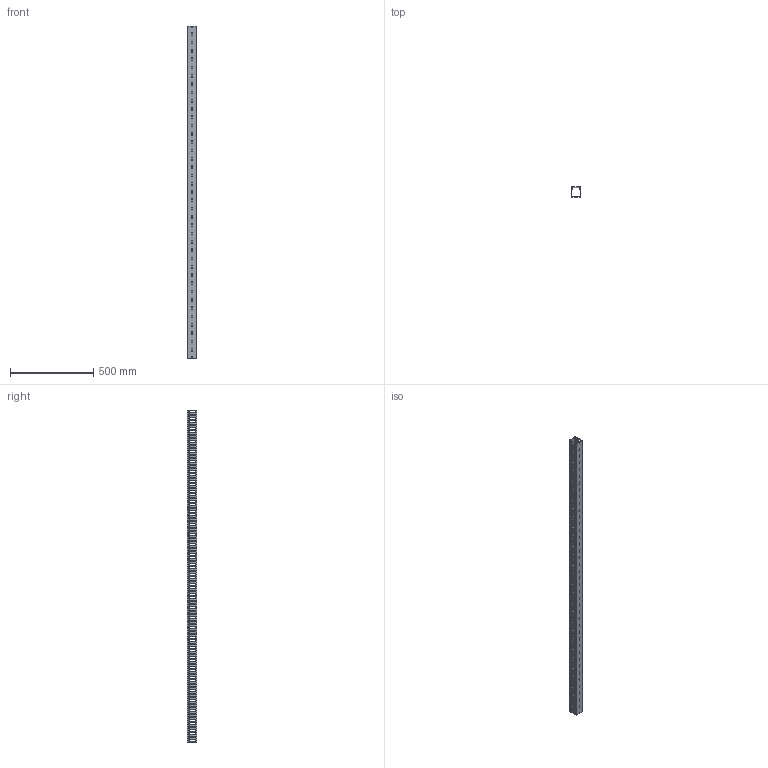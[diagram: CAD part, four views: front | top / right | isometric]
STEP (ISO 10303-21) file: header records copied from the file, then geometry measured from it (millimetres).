
FILE_DESCRIPTION (( 'STEP AP214' ), '1' );
FILE_NAME ('KD-56-20-T.STEP', '2020-02-19T00:30:36', ( '' ), ( '' ), 'SwSTEP 2.0', 'SolidWorks 2018', '' );
FILE_SCHEMA (( 'AUTOMOTIVE_DESIGN' ));
Length unit declared in the file: millimetre
Products named in the file (3): KD-56-20-T-body; KD-56-20-cover; KD-56-20-T
Assembly tree (2 placements, depth 2):
  KD-56-20-T
    KD-56-20-T-body
    KD-56-20-cover
Bounding box: 52 x 60.17 x 2000 mm (x, y, z)
Volume: 718991.2 mm3; surface area: 917880.1 mm2
Topology: 2 solids, 2 shells, 2867 faces, 9789 edges, 6526 vertices
Faces by surface type: plane 1710, cylinder 1157
Entity records: 107903 total; most frequent: ORIENTED_EDGE 19578, CARTESIAN_POINT 19187, DIRECTION 18647, EDGE_CURVE 9789, LINE 6675, VECTOR 6675, VERTEX_POINT 6526, AXIS2_PLACEMENT_3D 5986
